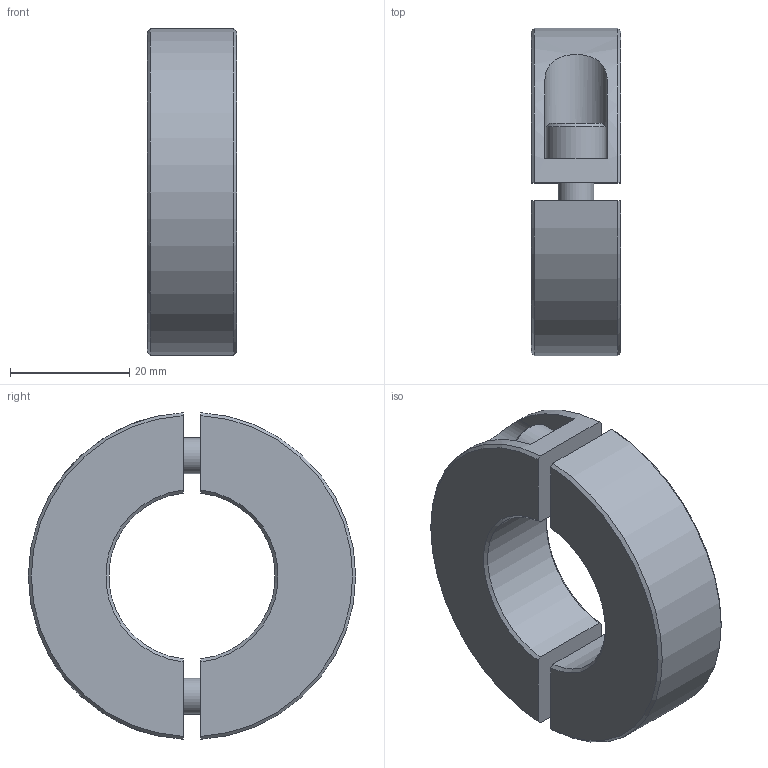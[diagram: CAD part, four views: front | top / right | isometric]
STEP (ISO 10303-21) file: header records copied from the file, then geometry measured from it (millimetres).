
FILE_DESCRIPTION(/* description */ ('STEP AP214'),/* implementation_level */ '2;1');
FILE_NAME(/* name */ 'Split Shaft Collar_ Aluminum GN 707.2-55-B28-AL',/* time_stamp */ '2024-06-10T15:26:53+02:00',/* author */ ('License CC BY-ND 4.0'),/* organization */ ('CADENAS'),/* preprocessor_version */ 'ST-DEVELOPER v19.3',/* originating_system */ 'PARTsolutions',/* authorisation */ ' ');
FILE_SCHEMA (('AUTOMOTIVE_DESIGN {1 0 10303 214 3 1 1}'));
Length unit declared in the file: millimetre
Products named in the file (1): Split Shaft Collar, Aluminum GN 707.2-55-B28-AL
Bounding box: 15 x 55 x 54.92 mm (x, y, z)
Volume: 23419.8 mm3; surface area: 9284.2 mm2
Topology: 1 solids, 3 shells, 74 faces, 172 edges, 110 vertices
Faces by surface type: plane 44, cone 16, cylinder 14
Full cylindrical faces by diameter (mm): 4.917 x2, 6 x2, 6.3 x2, 10 x2
Entity records: 2518 total; most frequent: CARTESIAN_POINT 393, DIRECTION 332, ORIENTED_EDGE 292, EDGE_CURVE 146, AXIS2_PLACEMENT_3D 129, VERTEX_POINT 104, FACE_BOUND 102, EDGE_LOOP 98
